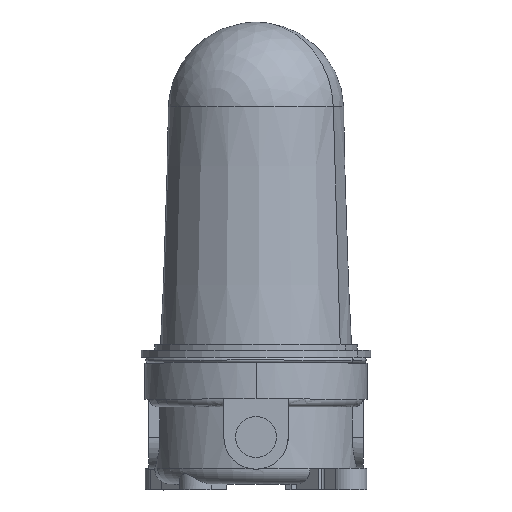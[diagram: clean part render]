
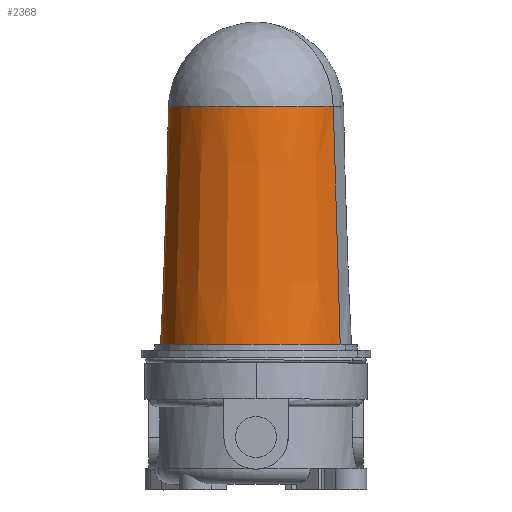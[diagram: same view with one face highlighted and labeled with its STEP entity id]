
A CAD part, top view. The second image highlights one B-rep face of the part: STEP entity #2368.
In plain terms, the highlighted conical face has half-angle 1.89 degrees and reference radius 49 mm.
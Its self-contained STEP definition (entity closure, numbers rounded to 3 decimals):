
#1959 = VERTEX_POINT ( 'NONE', #6462 ) ;
#2017 = VERTEX_POINT ( 'NONE', #5858 ) ;
#2172 = ORIENTED_EDGE ( 'NONE', *, *, #2314, .T. ) ;
#2173 = ORIENTED_EDGE ( 'NONE', *, *, #2174, .F. ) ;
#2174 = EDGE_CURVE ( 'NONE', #2416, #2417, #6328, .T. ) ;
#2264 = EDGE_CURVE ( 'NONE', #1959, #2017, #6860, .T. ) ;
#2314 = EDGE_CURVE ( 'NONE', #2017, #2417, #7047, .T. ) ;
#2360 = ORIENTED_EDGE ( 'NONE', *, *, #2264, .T. ) ;
#2368 = ADVANCED_FACE ( 'NONE', ( #6967 ), #6912, .T. ) ;
#2369 = ORIENTED_EDGE ( 'NONE', *, *, #2415, .F. ) ;
#2415 = EDGE_CURVE ( 'NONE', #1959, #2416, #7011, .T. ) ;
#2416 = VERTEX_POINT ( 'NONE', #6949 ) ;
#2417 = VERTEX_POINT ( 'NONE', #6948 ) ;
#2479 = EDGE_LOOP ( 'NONE', ( #2369, #2360, #2172, #2173 ) ) ;
#5858 = CARTESIAN_POINT ( 'NONE',  ( -39.649, 193.484, -21.231 ) ) ;
#6324 = DIRECTION ( 'NONE',  ( -0.882, 0., -0.472 ) ) ;
#6325 = DIRECTION ( 'NONE',  ( 0., -1., 0. ) ) ;
#6326 = CARTESIAN_POINT ( 'NONE',  ( 0., 71.5, 0. ) ) ;
#6327 = AXIS2_PLACEMENT_3D ( 'NONE', #6326, #6325, #6324 ) ;
#6328 = CIRCLE ( 'NONE', #6327, 49. ) ;
#6462 = CARTESIAN_POINT ( 'NONE',  ( 39.649, 193.484, 21.231 ) ) ;
#6856 = DIRECTION ( 'NONE',  ( -0.882, 0., -0.472 ) ) ;
#6857 = DIRECTION ( 'NONE',  ( 0., -1., 0. ) ) ;
#6858 = CARTESIAN_POINT ( 'NONE',  ( 0., 193.484, 0. ) ) ;
#6859 = AXIS2_PLACEMENT_3D ( 'NONE', #6858, #6857, #6856 ) ;
#6860 = CIRCLE ( 'NONE', #6859, 44.976 ) ;
#6906 = DIRECTION ( 'NONE',  ( -0.882, 0., -0.472 ) ) ;
#6907 = DIRECTION ( 'NONE',  ( 0., -1., 0. ) ) ;
#6908 = CARTESIAN_POINT ( 'NONE',  ( 0., 71.5, 0. ) ) ;
#6909 = AXIS2_PLACEMENT_3D ( 'NONE', #6908, #6907, #6906 ) ;
#6912 = CONICAL_SURFACE ( 'NONE', #6909, 49., 0.033 ) ;
#6948 = CARTESIAN_POINT ( 'NONE',  ( -43.197, 71.5, -23.13 ) ) ;
#6949 = CARTESIAN_POINT ( 'NONE',  ( 43.197, 71.5, 23.13 ) ) ;
#6967 = FACE_OUTER_BOUND ( 'NONE', #2479, .T. ) ;
#7008 = DIRECTION ( 'NONE',  ( 0.029, -0.999, 0.016 ) ) ;
#7009 = VECTOR ( 'NONE', #7008, 1000. ) ;
#7010 = CARTESIAN_POINT ( 'NONE',  ( 43.197, 71.5, 23.13 ) ) ;
#7011 = LINE ( 'NONE', #7010, #7009 ) ;
#7044 = DIRECTION ( 'NONE',  ( -0.029, -0.999, -0.016 ) ) ;
#7045 = VECTOR ( 'NONE', #7044, 1000. ) ;
#7046 = CARTESIAN_POINT ( 'NONE',  ( -43.197, 71.5, -23.13 ) ) ;
#7047 = LINE ( 'NONE', #7046, #7045 ) ;
